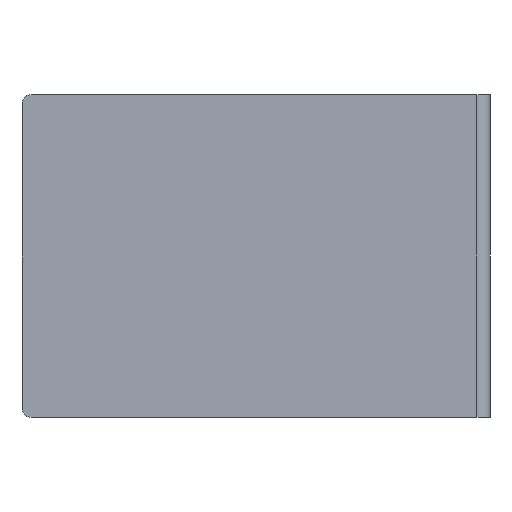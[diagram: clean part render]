
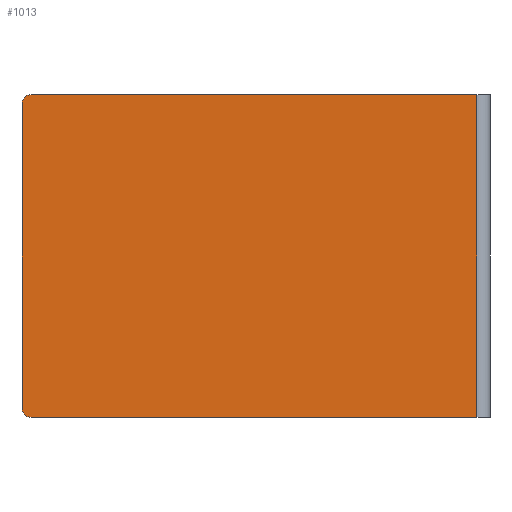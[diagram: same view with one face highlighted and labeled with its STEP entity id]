
A CAD part, left-side view. The second image highlights one B-rep face of the part: STEP entity #1013.
In plain terms, the highlighted planar face has unit normal (-1, 0, 0).
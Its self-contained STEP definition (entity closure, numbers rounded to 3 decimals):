
#28 = EDGE_CURVE ( 'NONE', #1281, #1808, #2080, .T. ) ;
#41 = CIRCLE ( 'NONE', #2024, 10. ) ;
#125 = DIRECTION ( 'NONE',  ( 0., 0., 1. ) ) ;
#130 = VECTOR ( 'NONE', #692, 1000. ) ;
#157 = CARTESIAN_POINT ( 'NONE',  ( -11., 0., 0. ) ) ;
#256 = CARTESIAN_POINT ( 'NONE',  ( -11., -396., -345. ) ) ;
#356 = EDGE_LOOP ( 'NONE', ( #2355, #572, #1231, #1866, #1670, #532 ) ) ;
#396 = EDGE_CURVE ( 'NONE', #1808, #520, #41, .T. ) ;
#490 = VERTEX_POINT ( 'NONE', #1977 ) ;
#513 = DIRECTION ( 'NONE',  ( -1., 0., 0. ) ) ;
#520 = VERTEX_POINT ( 'NONE', #2474 ) ;
#532 = ORIENTED_EDGE ( 'NONE', *, *, #633, .T. ) ;
#541 = CARTESIAN_POINT ( 'NONE',  ( -11., 80., -10. ) ) ;
#550 = VERTEX_POINT ( 'NONE', #2255 ) ;
#572 = ORIENTED_EDGE ( 'NONE', *, *, #396, .T. ) ;
#633 = EDGE_CURVE ( 'NONE', #490, #1281, #1303, .T. ) ;
#640 = VECTOR ( 'NONE', #2092, 1000. ) ;
#653 = DIRECTION ( 'NONE',  ( -1., 0., 0. ) ) ;
#658 = CARTESIAN_POINT ( 'NONE',  ( -11., 90., 0. ) ) ;
#659 = LINE ( 'NONE', #2620, #2197 ) ;
#692 = DIRECTION ( 'NONE',  ( 0., 0., 1. ) ) ;
#862 = DIRECTION ( 'NONE',  ( 0., 1., 0. ) ) ;
#919 = DIRECTION ( 'NONE',  ( 0., 0., 1. ) ) ;
#931 = DIRECTION ( 'NONE',  ( 0., -1., 0. ) ) ;
#1013 = ADVANCED_FACE ( 'NONE', ( #2062 ), #2081, .T. ) ;
#1044 = LINE ( 'NONE', #658, #2616 ) ;
#1231 = ORIENTED_EDGE ( 'NONE', *, *, #2593, .T. ) ;
#1272 = CARTESIAN_POINT ( 'NONE',  ( -11., 90., -335. ) ) ;
#1281 = VERTEX_POINT ( 'NONE', #1951 ) ;
#1303 = CIRCLE ( 'NONE', #1618, 10. ) ;
#1316 = CARTESIAN_POINT ( 'NONE',  ( -11., 80., -335. ) ) ;
#1499 = DIRECTION ( 'NONE',  ( 0., 0., 1. ) ) ;
#1618 = AXIS2_PLACEMENT_3D ( 'NONE', #541, #2023, #919 ) ;
#1670 = ORIENTED_EDGE ( 'NONE', *, *, #1807, .T. ) ;
#1807 = EDGE_CURVE ( 'NONE', #550, #490, #1044, .T. ) ;
#1808 = VERTEX_POINT ( 'NONE', #1272 ) ;
#1866 = ORIENTED_EDGE ( 'NONE', *, *, #2535, .T. ) ;
#1951 = CARTESIAN_POINT ( 'NONE',  ( -11., 90., -10. ) ) ;
#1977 = CARTESIAN_POINT ( 'NONE',  ( -11., 80., 0. ) ) ;
#2023 = DIRECTION ( 'NONE',  ( -1., 0., 0. ) ) ;
#2024 = AXIS2_PLACEMENT_3D ( 'NONE', #1316, #653, #1499 ) ;
#2062 = FACE_OUTER_BOUND ( 'NONE', #356, .T. ) ;
#2080 = LINE ( 'NONE', #2253, #640 ) ;
#2081 = PLANE ( 'NONE',  #2609 ) ;
#2092 = DIRECTION ( 'NONE',  ( 0., 0., -1. ) ) ;
#2190 = LINE ( 'NONE', #256, #130 ) ;
#2197 = VECTOR ( 'NONE', #931, 1000. ) ;
#2205 = CARTESIAN_POINT ( 'NONE',  ( -11., -396., -345. ) ) ;
#2253 = CARTESIAN_POINT ( 'NONE',  ( -11., 90., -345. ) ) ;
#2255 = CARTESIAN_POINT ( 'NONE',  ( -11., -396., 0. ) ) ;
#2355 = ORIENTED_EDGE ( 'NONE', *, *, #28, .T. ) ;
#2474 = CARTESIAN_POINT ( 'NONE',  ( -11., 80., -345. ) ) ;
#2535 = EDGE_CURVE ( 'NONE', #2617, #550, #2190, .T. ) ;
#2593 = EDGE_CURVE ( 'NONE', #520, #2617, #659, .T. ) ;
#2609 = AXIS2_PLACEMENT_3D ( 'NONE', #157, #513, #125 ) ;
#2616 = VECTOR ( 'NONE', #862, 1000. ) ;
#2617 = VERTEX_POINT ( 'NONE', #2205 ) ;
#2620 = CARTESIAN_POINT ( 'NONE',  ( -11., 90., -345. ) ) ;
